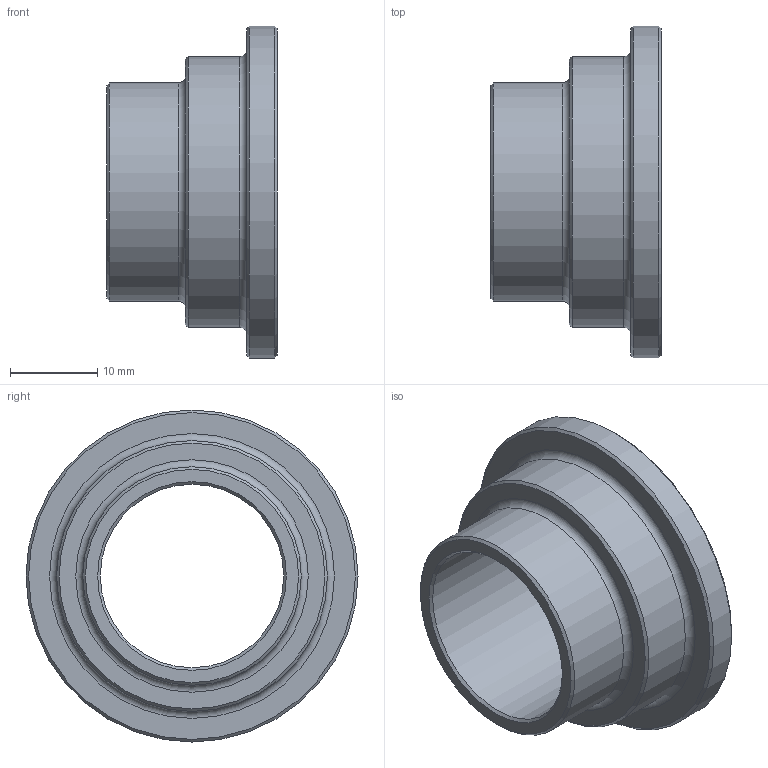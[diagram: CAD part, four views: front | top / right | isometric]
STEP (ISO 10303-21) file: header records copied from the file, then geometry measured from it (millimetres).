
FILE_DESCRIPTION(/* description */ (''),/* implementation_level */ '2;1');
FILE_NAME(/* name */ 'C:\Users\cad\Desktop\Zeichnungen neu von Ralph\3D_Kupplung_R666-SE\3D_R666-SE-25-DN32_17113345.stp',/* time_stamp */ '2021-06-18T08:15:00+02:00',/* author */ ('cad'),/* organization */ (''),/* preprocessor_version */ 'ST-DEVELOPER v18.1',/* originating_system */ 'Autodesk Inventor 2022',/* authorisation */ '');
FILE_SCHEMA (('AUTOMOTIVE_DESIGN { 1 0 10303 214 3 1 1 }'));
Length unit declared in the file: millimetre
Products named in the file (1): 3D_R666-SE-25-DN32_17113345
Bounding box: 19.5 x 38 x 38 mm (x, y, z)
Volume: 6676.5 mm3; surface area: 4439.7 mm2
Topology: 1 solids, 1 shells, 16 faces, 35 edges, 23 vertices
Faces by surface type: cone 6, cylinder 4, plane 4, torus 2
Full cylindrical faces by diameter (mm): 21 x1, 25 x1, 31 x1, 38 x1
Entity records: 501 total; most frequent: DIRECTION 94, CARTESIAN_POINT 75, ORIENTED_EDGE 70, AXIS2_PLACEMENT_3D 42, EDGE_CURVE 35, CIRCLE 25, VERTEX_POINT 23, EDGE_LOOP 20
